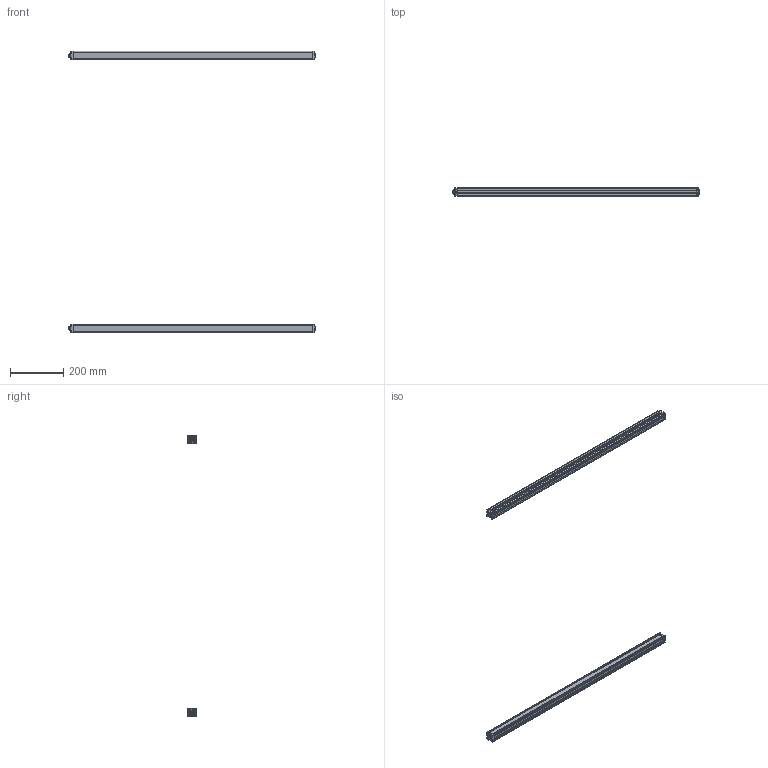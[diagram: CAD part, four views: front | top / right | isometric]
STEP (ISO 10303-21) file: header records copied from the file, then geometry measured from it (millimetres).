
FILE_DESCRIPTION((''),'2;1');
FILE_NAME('THW_ASM','2019-05-20T',('Administrator'),(''),'PRO/ENGINEER BY PARAMETRIC TECHNOLOGY CORPORATION, 2002180','PRO/ENGINEER BY PARAMETRIC TECHNOLOGY CORPORATION, 2002180','');
FILE_SCHEMA(('CONFIG_CONTROL_DESIGN'));
Length unit declared in the file: millimetre
Products named in the file (10): 11; 101; 102; 13; 12; 14; 16; ASM0002_ASM; 0000_ASM; THW_ASM
Assembly tree (10 placements, depth 4):
  THW_ASM
    0000_ASM  x2
      11
      101
      102
      13
      12
      ASM0002_ASM
        14
        16
Bounding box: 932 x 30.3 x 1058.6 mm (x, y, z)
Volume: 567342.3 mm3; surface area: 618229.5 mm2
Topology: 10 solids, 14 shells, 1080 faces, 3010 edges, 1986 vertices
Faces by surface type: plane 764, cylinder 288, cone 28
Entity records: 17771 total; most frequent: CARTESIAN_POINT 3380, ORIENTED_EDGE 3006, DIRECTION 2885, EDGE_CURVE 1505, VECTOR 1177, LINE 1177, VERTEX_POINT 993, AXIS2_PLACEMENT_3D 854
